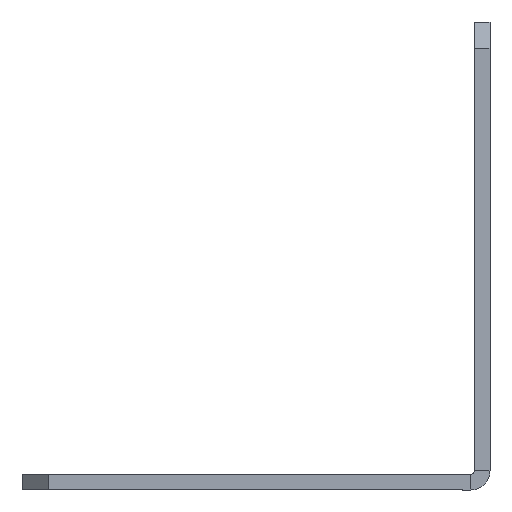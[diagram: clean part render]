
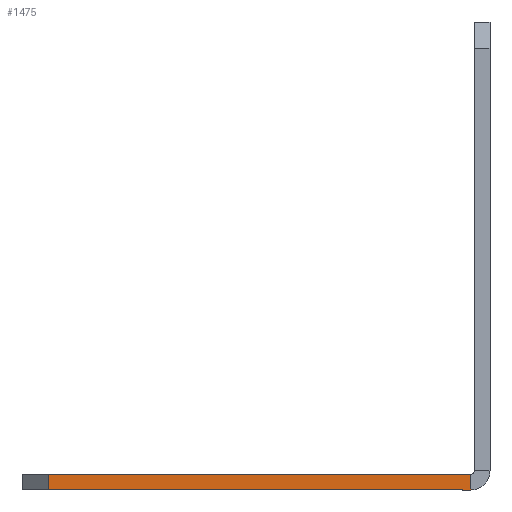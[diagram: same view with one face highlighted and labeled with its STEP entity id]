
A CAD part, left-side view. The second image highlights one B-rep face of the part: STEP entity #1475.
In plain terms, the highlighted planar face has unit normal (-1, 0, 0).
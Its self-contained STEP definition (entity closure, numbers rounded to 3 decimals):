
#54 = AXIS2_PLACEMENT_3D ( 'NONE', #89, #67, #1478 ) ;
#67 = DIRECTION ( 'NONE',  ( -1., 0., 0. ) ) ;
#89 = CARTESIAN_POINT ( 'NONE',  ( 0., -82.078, -89.922 ) ) ;
#104 = ORIENTED_EDGE ( 'NONE', *, *, #1445, .F. ) ;
#141 = CARTESIAN_POINT ( 'NONE',  ( 0., 81.922, -86.922 ) ) ;
#149 = DIRECTION ( 'NONE',  ( 0., -1., 0. ) ) ;
#255 = EDGE_CURVE ( 'NONE', #603, #1707, #462, .T. ) ;
#379 = PLANE ( 'NONE',  #54 ) ;
#388 = CARTESIAN_POINT ( 'NONE',  ( 0., 0.737, -86.922 ) ) ;
#435 = CARTESIAN_POINT ( 'NONE',  ( 0., 81.922, -89.922 ) ) ;
#462 = LINE ( 'NONE', #752, #1249 ) ;
#472 = CARTESIAN_POINT ( 'NONE',  ( 0., -82.078, -86.922 ) ) ;
#580 = VERTEX_POINT ( 'NONE', #141 ) ;
#603 = VERTEX_POINT ( 'NONE', #435 ) ;
#638 = DIRECTION ( 'NONE',  ( 0., 0., 1. ) ) ;
#752 = CARTESIAN_POINT ( 'NONE',  ( 0., -82.078, -89.922 ) ) ;
#805 = LINE ( 'NONE', #1345, #852 ) ;
#852 = VECTOR ( 'NONE', #1500, 1000. ) ;
#978 = ORIENTED_EDGE ( 'NONE', *, *, #1940, .F. ) ;
#1091 = EDGE_CURVE ( 'NONE', #580, #1382, #1719, .T. ) ;
#1094 = CARTESIAN_POINT ( 'NONE',  ( 0., 81.922, -89.922 ) ) ;
#1242 = LINE ( 'NONE', #1094, #1461 ) ;
#1249 = VECTOR ( 'NONE', #149, 1000. ) ;
#1263 = DIRECTION ( 'NONE',  ( 0., -1., 0. ) ) ;
#1345 = CARTESIAN_POINT ( 'NONE',  ( 0., 0.737, -89.922 ) ) ;
#1382 = VERTEX_POINT ( 'NONE', #388 ) ;
#1445 = EDGE_CURVE ( 'NONE', #1382, #1707, #805, .T. ) ;
#1461 = VECTOR ( 'NONE', #638, 1000. ) ;
#1475 = ADVANCED_FACE ( 'NONE', ( #2010 ), #379, .T. ) ;
#1478 = DIRECTION ( 'NONE',  ( 0., -1., 0. ) ) ;
#1500 = DIRECTION ( 'NONE',  ( 0., 0., -1. ) ) ;
#1682 = EDGE_LOOP ( 'NONE', ( #104, #1876, #978, #1758 ) ) ;
#1707 = VERTEX_POINT ( 'NONE', #2017 ) ;
#1719 = LINE ( 'NONE', #472, #1745 ) ;
#1745 = VECTOR ( 'NONE', #1263, 1000. ) ;
#1758 = ORIENTED_EDGE ( 'NONE', *, *, #255, .T. ) ;
#1876 = ORIENTED_EDGE ( 'NONE', *, *, #1091, .F. ) ;
#1940 = EDGE_CURVE ( 'NONE', #603, #580, #1242, .T. ) ;
#2010 = FACE_OUTER_BOUND ( 'NONE', #1682, .T. ) ;
#2017 = CARTESIAN_POINT ( 'NONE',  ( 0., 0.737, -89.922 ) ) ;
